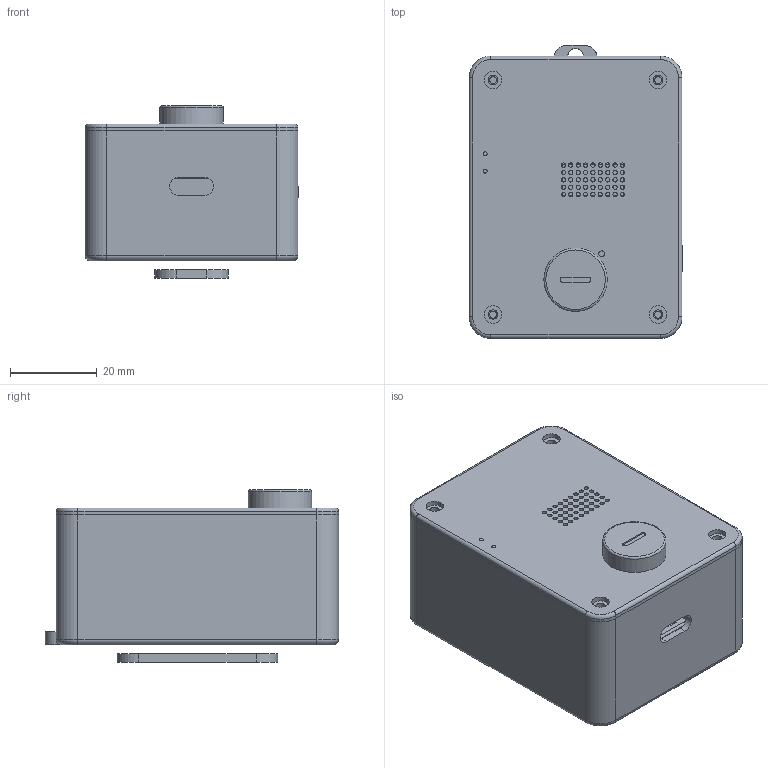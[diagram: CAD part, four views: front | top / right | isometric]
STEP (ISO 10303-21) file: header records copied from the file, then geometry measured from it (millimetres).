
FILE_DESCRIPTION(('Open CASCADE Model'),'2;1');
FILE_NAME('Open CASCADE Shape Model','2026-09-08T13:42:51',('Author'),( 'Open CASCADE'),'Open CASCADE STEP processor 7.9','Open CASCADE 7.9' ,'Unknown');
FILE_SCHEMA(('AUTOMOTIVE_DESIGN { 1 0 10303 214 1 1 1 1 }'));
Length unit declared in the file: millimetre
Products named in the file (1): COMPOUND
Bounding box: 49.2 x 67.5 x 39.7 mm (x, y, z)
Volume: 28117.5 mm3; surface area: 38668 mm2
Topology: 9 solids, 9 shells, 386 faces, 963 edges, 636 vertices
Faces by surface type: plane 206, cylinder 168, torus 9, bspline 3
Full cylindrical faces by diameter (mm): 0.9 x4, 1 x45, 1.3 x1, 1.4 x4, 1.6 x4, 1.8 x2, 2.2 x4, 2.4 x2, 4 x6, 4.6 x8, 6.3 x4, 9 x1, 11 x2, 11.5 x1, 14.6 x1
Entity records: 27909 total; most frequent: CARTESIAN_POINT 8472, DIRECTION 3554, ORIENTED_EDGE 1926, PCURVE 1926, DEFINITIONAL_REPRESENTATION 1926, LINE 1797, VECTOR 1797, EDGE_CURVE 963
